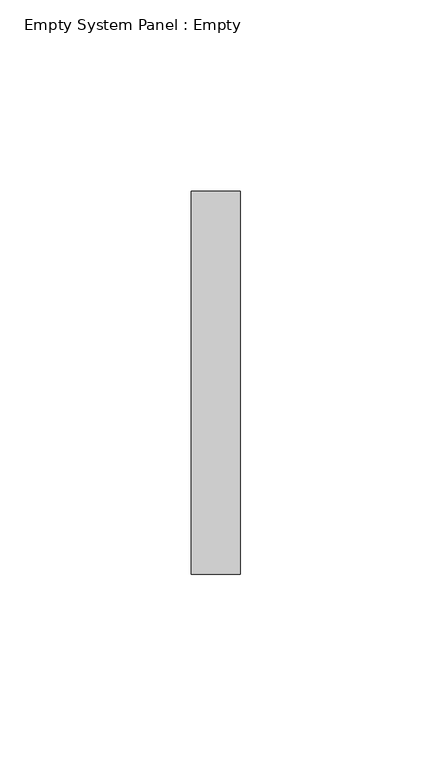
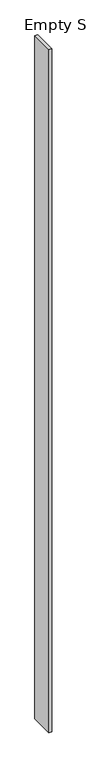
"""IFC4 building model written with IfcOpenShell, lengths in millimetres: plate geometry, Empty System Panel : Empty."""

from ifc_helpers import new_model, si_unit, origin, origin_with_axes, place, context, project, spatial, polyline, outline, extrude, source, transform, mapped, element, save


def empty_system_panel_empty_8dc9dcb4(model_context):
    return source(origin(), model_context, "Body", "SweptSolid", [
        extrude(outline(polyline([(6.3709517, 50.0), (-6.3709517, 50.0), (-6.3709517, 150.0), (6.3709517, 150.0), (6.3709517, 50.0)])), origin_with_axes(), (0.0, 0.0, 1.0), 3000.0),
    ])


if __name__ == "__main__":
    model = new_model("IFC4")
    model_context = context("Model", 3, world=origin())
    ifc_project = project(units=[si_unit("LENGTHUNIT", "METRE", prefix="MILLI")], contexts=[model_context])
    site = spatial("IfcSite", under=ifc_project)
    building = spatial("IfcBuilding", under=site)
    placement = place(None, origin())
    empty_system_panel_empty_shape = empty_system_panel_empty_8dc9dcb4(model_context)
    element("IfcPlate", 1, ObjectType="Empty System Panel : Empty", at=placement, inside=building, context=model_context, shape_type="MappedRepresentation", body=[
        mapped(empty_system_panel_empty_shape, transform((0.0, 0.0, 0.0), x_axis=(1.0, 0.0, 0.0), y_axis=(0.0, 1.0, 0.0), z_axis=(0.0, 0.0, 1.0))),
    ])
    save(model, "model.ifc")
